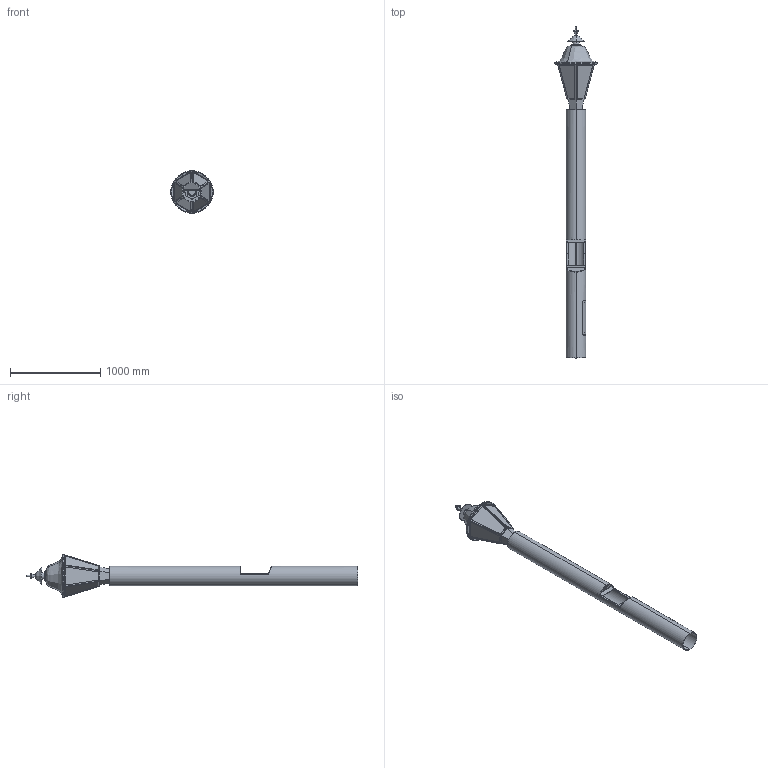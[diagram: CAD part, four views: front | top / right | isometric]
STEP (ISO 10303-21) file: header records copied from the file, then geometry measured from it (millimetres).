
FILE_DESCRIPTION (( 'STEP AP203' ), '1' );
FILE_NAME ('cad-160_CB5-s_Dec_Top_dwg.STEP', '2019-05-03T02:47:55', ( '' ), ( '' ), 'SwSTEP 2.0', 'SolidWorks 2018', '' );
FILE_SCHEMA (( 'CONFIG_CONTROL_DESIGN' ));
Length unit declared in the file: inch
Products named in the file (1): cad-160_CB5-s_Dec_Top_dwg
Bounding box: 469.9 x 3672 x 469.9 mm (x, y, z)
Volume: 17616633.2 mm3; surface area: 6382370.9 mm2
Topology: 27 solids, 27 shells, 1019 faces, 2702 edges, 1744 vertices
Faces by surface type: plane 501, cylinder 305, cone 131, bspline 82
Entity records: 39853 total; most frequent: CARTESIAN_POINT 15255, ORIENTED_EDGE 5356, DIRECTION 4796, EDGE_CURVE 2678, VERTEX_POINT 1744, AXIS2_PLACEMENT_3D 1717, LINE 1362, VECTOR 1362
